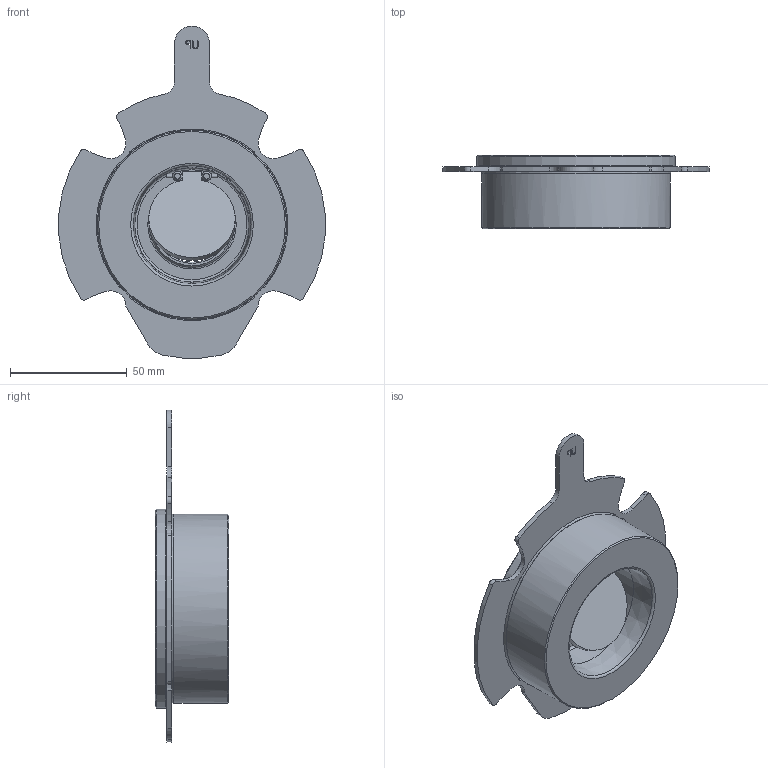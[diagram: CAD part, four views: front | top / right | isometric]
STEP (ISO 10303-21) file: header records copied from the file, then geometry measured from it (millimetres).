
FILE_DESCRIPTION((''),'2;1');
FILE_NAME('Z:\湯本G\AutoCAD\★3Dデータ\CKF5M\(2)STEPファイル\ckf5m-040-wafer-00.stp','2013-05-28T09:59:01',('sugie07'),(''),'Autodesk Inventor 2012','Autodesk Inventor 2012','');
FILE_SCHEMA(('AUTOMOTIVE_DESIGN { 1 0 10303 214 1 1 1 1 }'));
Length unit declared in the file: millimetre
Products named in the file (1): ckf5m-040-wafer-00
Bounding box: 113.91 x 31.5 x 142 mm (x, y, z)
Volume: 3352.8 mm3; surface area: 34314.2 mm2
Topology: 3 solids, 4 shells, 145 faces, 379 edges, 248 vertices
Faces by surface type: cylinder 54, plane 52, bspline 18, cone 15, torus 6
Full cylindrical faces by diameter (mm): 1.6 x1, 1.8 x3, 2.5 x2, 2.6 x2, 4 x1, 32 x1, 49 x1, 80.8 x1, 81 x1, 85 x1
Entity records: 4608 total; most frequent: CARTESIAN_POINT 1041, DIRECTION 679, ORIENTED_EDGE 670, EDGE_CURVE 335, AXIS2_PLACEMENT_3D 264, VERTEX_POINT 238, EDGE_LOOP 201, VECTOR 151
